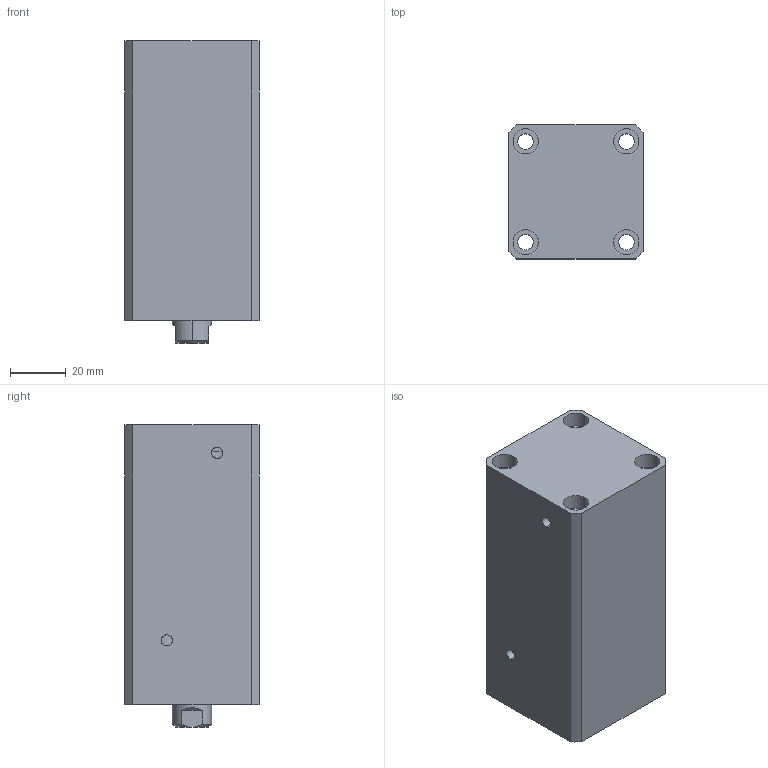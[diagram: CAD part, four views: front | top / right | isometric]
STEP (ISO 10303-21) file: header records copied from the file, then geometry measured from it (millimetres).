
FILE_DESCRIPTION (( 'STEP AP214' ), '1' );
FILE_NAME ('chtb-sdma25x55n_asm.STEP', '2018-05-22T07:07:31', ( 'Windows' ), ( 'Microsoft' ), 'SwSTEP 2.0', 'SolidWorks 2015', '' );
FILE_SCHEMA (( 'AUTOMOTIVE_DESIGN' ));
Length unit declared in the file: millimetre
Products named in the file (4): CHTB-SDMA25X55NBT; CHTB-25QG; chtb-sdma25x55n_asm; CHTB-SDMA25X55NHSG
Assembly tree (3 placements, depth 2):
  chtb-sdma25x55n_asm
    CHTB-25QG
    CHTB-SDMA25X55NBT
    CHTB-SDMA25X55NHSG
Bounding box: 48 x 48 x 108 mm (x, y, z)
Volume: 196446.8 mm3; surface area: 51234.1 mm2
Topology: 3 solids, 3 shells, 142 faces, 379 edges, 257 vertices
Faces by surface type: cylinder 89, plane 34, bspline 10, cone 9
Entity records: 8020 total; most frequent: CARTESIAN_POINT 4393, ORIENTED_EDGE 746, DIRECTION 661, EDGE_CURVE 373, AXIS2_PLACEMENT_3D 272, VERTEX_POINT 257, EDGE_LOOP 180, FACE_OUTER_BOUND 142
